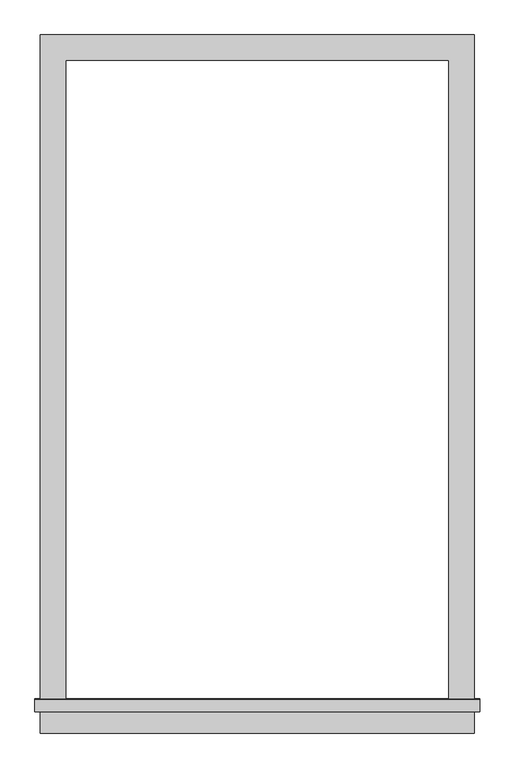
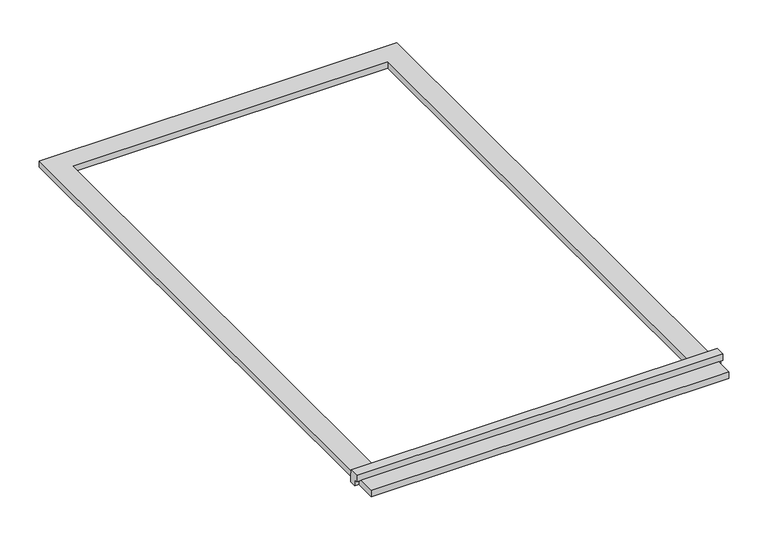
"""IFC4 building model written with IfcOpenShell, lengths in millimetres: proxy geometry, M_Obložení, okno, vnější, rovné : s parapetem."""

import ifcopenshell
import ifcopenshell.guid

model = None  # the IFC model being written
_history = None  # IfcOwnerHistory: only IFC2X3 demands one
_inside = {}  # id of a spatial element -> (the spatial element, [elements in it])
_under = {}  # id of a project, library or spatial element -> (it, [spatial elements below it])
_declared = {}  # id of a project -> (the project, [libraries it declares])
_typed = {}  # id of a type object -> (the type object, [elements of that type])
_made_of = {}  # id of a material, layer set ... -> (it, [elements and type objects made of it])


def new_model(schema):
    """Start an empty IFC model of exactly this schema.

    Asked for "IFC4X3", IfcOpenShell would pick the latest addendum, in which some entities
    have other attributes; the version numbers below select the first issue.
    IFC2X3 requires an IfcOwnerHistory on every rooted entity: one is made here for all.
    """
    global model, _history
    if schema == "IFC4X3":
        model = ifcopenshell.file(schema_version=(4, 3, 0, 0))
    else:
        model = ifcopenshell.file(schema=schema)
    _inside.clear()
    _under.clear()
    _declared.clear()
    _typed.clear()
    _made_of.clear()
    _history = None
    if model.schema == "IFC2X3":
        org = make("IfcOrganization", Name="unknown")
        user = make(
            "IfcPersonAndOrganization",
            ThePerson=make("IfcPerson", FamilyName="unknown"),
            TheOrganization=org,
        )
        app = make(
            "IfcApplication",
            ApplicationDeveloper=org,
            Version="unknown",
            ApplicationFullName="unknown",
            ApplicationIdentifier="unknown",
        )
        _history = make(
            "IfcOwnerHistory",
            OwningUser=user,
            OwningApplication=app,
            ChangeAction="ADDED",
            CreationDate=0,
        )
    return model


def make(cls, **values):
    """One entity of the class cls with the attributes given. An attribute that is None is left unset."""
    return model.create_entity(
        cls, **{name: value for name, value in values.items() if value is not None}
    )


def rooted(cls, **values):
    """An entity with a GlobalId (a new one), such as an element, a storey or a relation."""
    return make(cls, GlobalId=ifcopenshell.guid.new(), OwnerHistory=_history, **values)


def si_unit(unit_type, name, prefix=None):
    """IfcSIUnit, for example si_unit("LENGTHUNIT", "METRE", prefix="MILLI")."""
    return make("IfcSIUnit", UnitType=unit_type, Prefix=prefix, Name=name)


def assignment(units):
    """IfcUnitAssignment: the units of a project."""
    return None if units is None else make("IfcUnitAssignment", Units=units)


def point(xyz):
    """IfcCartesianPoint."""
    return None if xyz is None else make("IfcCartesianPoint", Coordinates=xyz)


def direction(xyz):
    """IfcDirection."""
    return None if xyz is None else make("IfcDirection", DirectionRatios=xyz)


def frame(location, z_axis=None, x_axis=None):
    """IfcAxis2Placement3D, a coordinate frame: its origin and axes. An axis left out is left unset."""
    return make(
        "IfcAxis2Placement3D",
        Location=point(location),
        Axis=direction(z_axis),
        RefDirection=direction(x_axis),
    )


def origin():
    """The frame at (0, 0, 0) with its axes left unset."""
    return frame((0.0, 0.0, 0.0))


def origin_with_axes():
    """The frame at (0, 0, 0) with the z axis (0, 0, 1) and the x axis (1, 0, 0) written out."""
    return frame((0.0, 0.0, 0.0), z_axis=(0.0, 0.0, 1.0), x_axis=(1.0, 0.0, 0.0))


def place(relative_to, where):
    """IfcLocalPlacement: puts the frame where relative to a parent placement (None: the world)."""
    return make(
        "IfcLocalPlacement", PlacementRelTo=relative_to, RelativePlacement=where
    )


def context(
    kind, dimensions, precision=None, world=None, true_north=None, identifier=None
):
    """IfcGeometricRepresentationContext, for example the 3D "Model" context."""
    return make(
        "IfcGeometricRepresentationContext",
        ContextIdentifier=identifier,
        ContextType=kind,
        CoordinateSpaceDimension=dimensions,
        Precision=precision,
        WorldCoordinateSystem=world,
        TrueNorth=true_north,
    )


def project(units=None, contexts=None):
    """IfcProject with its units and contexts."""
    return rooted(
        "IfcProject",
        Name="project",
        RepresentationContexts=contexts,
        UnitsInContext=assignment(units),
    )


def spatial(cls, under=None, at=None, **own):
    """A site, building, storey or space (cls), placed at a placement, below another one or the project."""
    s = rooted(cls, ObjectPlacement=at, **own)
    if under is not None:
        _under.setdefault(under.id(), (under, []))[1].append(s)
    return s


def polyline(points):
    """IfcPolyline through the points."""
    return make("IfcPolyline", Points=[point(p) for p in points])


def outline(outer, holes=None, kind="AREA"):
    """IfcArbitraryClosedProfileDef: a profile drawn as a closed curve; with holes, ...WithVoids."""
    if holes is None:
        return make("IfcArbitraryClosedProfileDef", ProfileType=kind, OuterCurve=outer)
    return make(
        "IfcArbitraryProfileDefWithVoids",
        ProfileType=kind,
        OuterCurve=outer,
        InnerCurves=holes,
    )


def extrude(swept, where, along, depth):
    """IfcExtrudedAreaSolid: the profile swept, set in the frame where, extruded along a direction by depth."""
    return make(
        "IfcExtrudedAreaSolid",
        SweptArea=swept,
        Position=where,
        ExtrudedDirection=direction(along),
        Depth=depth,
    )


def shape(context_of_items, identifier, shape_type, items):
    """IfcShapeRepresentation: the items that make up one representation, for example the "Body"."""
    return make(
        "IfcShapeRepresentation",
        ContextOfItems=context_of_items,
        RepresentationIdentifier=identifier,
        RepresentationType=shape_type,
        Items=items,
    )


def source(mapping_origin, context_of_items, identifier, shape_type, items):
    """IfcRepresentationMap: a shape defined once, which mapped items show again and again."""
    return make(
        "IfcRepresentationMap",
        MappingOrigin=mapping_origin,
        MappedRepresentation=shape(context_of_items, identifier, shape_type, items),
    )


def transform(
    local_origin,
    x_axis=None,
    y_axis=None,
    z_axis=None,
    scale=None,
    scale2=None,
    scale3=None,
    uniform=True,
):
    """IfcCartesianTransformationOperator3D, or its non-uniform kind. x_axis, y_axis, z_axis: its Axis1, 2, 3."""
    if uniform:
        return make(
            "IfcCartesianTransformationOperator3D",
            Axis1=direction(x_axis),
            Axis2=direction(y_axis),
            LocalOrigin=point(local_origin),
            Scale=scale,
            Axis3=direction(z_axis),
        )
    return make(
        "IfcCartesianTransformationOperator3DnonUniform",
        Axis1=direction(x_axis),
        Axis2=direction(y_axis),
        LocalOrigin=point(local_origin),
        Scale=scale,
        Axis3=direction(z_axis),
        Scale2=scale2,
        Scale3=scale3,
    )


def mapped(mapping_source, mapping_target):
    """IfcMappedItem: shows the shape of a source again, moved by a transform."""
    return make(
        "IfcMappedItem", MappingSource=mapping_source, MappingTarget=mapping_target
    )


def made_of(thing, what):
    """Note that an element or type object is made of a material, layer set ...; save() writes the relation."""
    if what is not None:
        _made_of.setdefault(what.id(), (what, []))[1].append(thing)
    return thing


def element(
    cls,
    number,
    at=None,
    inside=None,
    cuts=None,
    type_object=None,
    material=None,
    context=None,
    identifier="Body",
    shape_type=None,
    held_by="IfcProductDefinitionShape",
    body=None,
    shapes=None,
    **own,
):
    """One element of the class cls, such as IfcWall. Its Tag is "e" and its number.

    at: its placement. inside: the storey or other place that contains it. cuts: it is an
    opening in that element (IfcRelVoidsElement). A single representation is given by context,
    identifier, shape_type and body (its items); several are given by shapes. held_by: the class
    of the entity that holds the representations. save() writes the other relations.
    """
    e = rooted(cls, Tag="e%d" % number, ObjectPlacement=at, **own)
    if body is not None:
        shapes = [shape(context, identifier, shape_type, body)]
    if shapes is not None:
        e.Representation = make(held_by, Representations=shapes)
    if inside is not None:
        _inside.setdefault(inside.id(), (inside, []))[1].append(e)
    if cuts is not None:
        rooted(
            "IfcRelVoidsElement", RelatingBuildingElement=cuts, RelatedOpeningElement=e
        )
    if type_object is not None:
        _typed.setdefault(type_object.id(), (type_object, []))[1].append(e)
    return made_of(e, material)


def aggregate(whole, parts):
    """IfcRelAggregates: a whole, such as a stair, and the parts it consists of."""
    return rooted("IfcRelAggregates", RelatingObject=whole, RelatedObjects=parts)


def save(model, path):
    """Write the relations noted so far, then the file.

    IfcRelAggregates (storeys below a building ...), IfcRelContainedInSpatialStructure (elements
    in a storey), IfcRelDefinesByType, IfcRelAssociatesMaterial and IfcRelDeclares: one each for
    every whole, place, type object, material and project.
    """
    for whole, parts in _under.values():
        aggregate(whole, parts)
    for where, things in _inside.values():
        rooted(
            "IfcRelContainedInSpatialStructure",
            RelatedElements=things,
            RelatingStructure=where,
        )
    for kind, things in _typed.values():
        rooted("IfcRelDefinesByType", RelatedObjects=things, RelatingType=kind)
    for what, things in _made_of.values():
        rooted("IfcRelAssociatesMaterial", RelatedObjects=things, RelatingMaterial=what)
    for by, libraries in _declared.values():
        rooted("IfcRelDeclares", RelatingContext=by, RelatedDefinitions=libraries)
    model.write(path)


def generic_models_94c03e9d(model_context):
    return source(origin(), model_context, "Body", "SweptSolid", [
        extrude(outline(polyline([(510.0, -1520.4323709), (510.0, -1580.4323709), (-510.0, -1580.4323709), (-510.0, -1520.4323709), (510.0, -1520.4323709)])), origin_with_axes(), (0.0, 0.0, 1.0), 19.05),
        extrude(outline(polyline([(-1530.0, 38.1), (-1502.4580645, 38.1), (-1500.0, 19.05), (-1500.0, 0.0), (-1520.4323709, 0.0), (-1520.4323709, 19.05), (-1530.0, 19.05), (-1530.0, 38.1)])), frame((-522.7, 0.0, 0.0), z_axis=(1.0, 0.0, 0.0), x_axis=(0.0, 1.0, 0.0)), (0.0, 0.0, 1.0), 1045.4),
        extrude(outline(polyline([(-510.0, 60.0), (510.0, 60.0), (510.0, -1500.0), (450.0, -1500.0), (450.0, 0.0), (-450.0, 0.0), (-450.0, -1500.0), (-510.0, -1500.0), (-510.0, 60.0)])), origin_with_axes(), (0.0, 0.0, 1.0), 19.05),
    ])


if __name__ == "__main__":
    model = new_model("IFC4")
    model_context = context("Model", 3, world=origin())
    ifc_project = project(units=[si_unit("LENGTHUNIT", "METRE", prefix="MILLI")], contexts=[model_context])
    site = spatial("IfcSite", under=ifc_project)
    building = spatial("IfcBuilding", under=site)
    placement = place(None, origin())
    generic_models_shape = generic_models_94c03e9d(model_context)
    element("IfcBuildingElementProxy", 1, Name="M_Obložení, okno, vnější, rovné : s parapetem", ObjectType="M_Obložení, okno, vnější, rovné : s parapetem", at=placement, inside=building, context=model_context, shape_type="MappedRepresentation", body=[
        mapped(generic_models_shape, transform((0.0, 0.0, 0.0), x_axis=(1.0, 0.0, 0.0), y_axis=(0.0, 1.0, 0.0), z_axis=(0.0, 0.0, 1.0))),
    ])
    save(model, "model.ifc")
